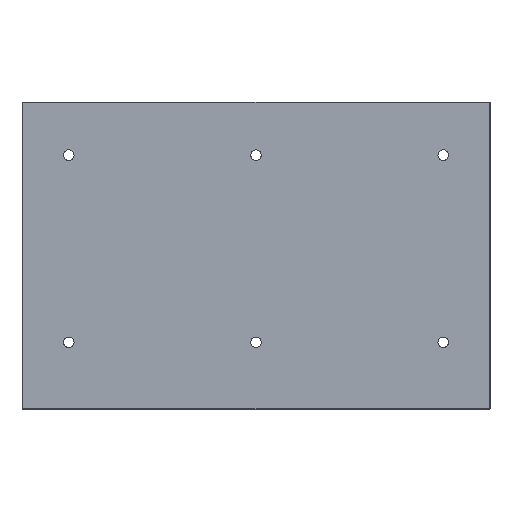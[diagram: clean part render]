
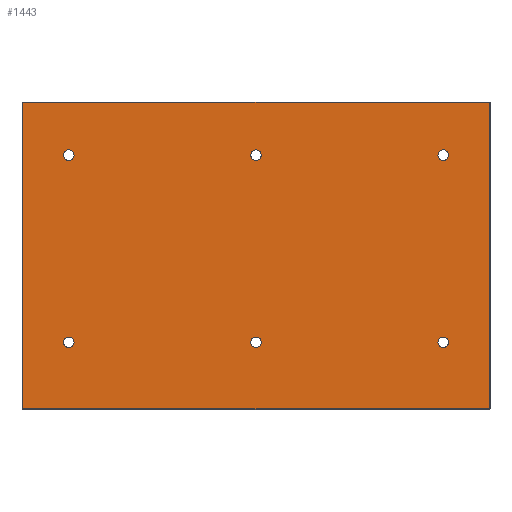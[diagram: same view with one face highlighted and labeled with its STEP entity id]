
A CAD part, front view. The second image highlights one B-rep face of the part: STEP entity #1443.
In plain terms, the highlighted planar face has unit normal (0, -1, 0).
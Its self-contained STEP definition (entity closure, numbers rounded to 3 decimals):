
#177=DIRECTION('',(0.,0.,-1.));
#178=VECTOR('',#177,523.5);
#179=CARTESIAN_POINT('',(398.5,0.,525.));
#180=LINE('',#179,#178);
#181=DIRECTION('',(-1.,0.,0.));
#182=VECTOR('',#181,797.);
#183=CARTESIAN_POINT('',(398.5,0.,1.5));
#184=LINE('',#183,#182);
#185=DIRECTION('',(0.,0.,1.));
#186=VECTOR('',#185,523.5);
#187=CARTESIAN_POINT('',(-398.5,0.,1.5));
#188=LINE('',#187,#186);
#189=DIRECTION('',(1.,0.,0.));
#190=VECTOR('',#189,797.);
#191=CARTESIAN_POINT('',(-398.5,0.,525.));
#192=LINE('',#191,#190);
#193=CARTESIAN_POINT('',(320.,0.,115.));
#194=DIRECTION('',(0.,1.,0.));
#195=DIRECTION('',(1.,0.,0.));
#196=AXIS2_PLACEMENT_3D('',#193,#194,#195);
#198=CARTESIAN_POINT('',(320.,0.,115.));
#199=DIRECTION('',(0.,1.,0.));
#200=DIRECTION('',(-1.,0.,0.));
#201=AXIS2_PLACEMENT_3D('',#198,#199,#200);
#203=CARTESIAN_POINT('',(320.,0.,435.));
#204=DIRECTION('',(0.,1.,0.));
#205=DIRECTION('',(1.,0.,0.));
#206=AXIS2_PLACEMENT_3D('',#203,#204,#205);
#208=CARTESIAN_POINT('',(320.,0.,435.));
#209=DIRECTION('',(0.,1.,0.));
#210=DIRECTION('',(-1.,0.,0.));
#211=AXIS2_PLACEMENT_3D('',#208,#209,#210);
#213=CARTESIAN_POINT('',(0.,0.,115.));
#214=DIRECTION('',(0.,1.,0.));
#215=DIRECTION('',(1.,0.,0.));
#216=AXIS2_PLACEMENT_3D('',#213,#214,#215);
#218=CARTESIAN_POINT('',(0.,0.,115.));
#219=DIRECTION('',(0.,1.,0.));
#220=DIRECTION('',(-1.,0.,0.));
#221=AXIS2_PLACEMENT_3D('',#218,#219,#220);
#223=CARTESIAN_POINT('',(0.,0.,435.));
#224=DIRECTION('',(0.,1.,0.));
#225=DIRECTION('',(1.,0.,0.));
#226=AXIS2_PLACEMENT_3D('',#223,#224,#225);
#228=CARTESIAN_POINT('',(0.,0.,435.));
#229=DIRECTION('',(0.,1.,0.));
#230=DIRECTION('',(-1.,0.,0.));
#231=AXIS2_PLACEMENT_3D('',#228,#229,#230);
#233=CARTESIAN_POINT('',(-320.,0.,115.));
#234=DIRECTION('',(0.,1.,0.));
#235=DIRECTION('',(1.,0.,0.));
#236=AXIS2_PLACEMENT_3D('',#233,#234,#235);
#238=CARTESIAN_POINT('',(-320.,0.,115.));
#239=DIRECTION('',(0.,1.,0.));
#240=DIRECTION('',(-1.,0.,0.));
#241=AXIS2_PLACEMENT_3D('',#238,#239,#240);
#243=CARTESIAN_POINT('',(-320.,0.,435.));
#244=DIRECTION('',(0.,1.,0.));
#245=DIRECTION('',(1.,0.,0.));
#246=AXIS2_PLACEMENT_3D('',#243,#244,#245);
#248=CARTESIAN_POINT('',(-320.,0.,435.));
#249=DIRECTION('',(0.,1.,0.));
#250=DIRECTION('',(-1.,0.,0.));
#251=AXIS2_PLACEMENT_3D('',#248,#249,#250);
#909=CARTESIAN_POINT('',(398.5,0.,525.));
#911=VERTEX_POINT('',#909);
#915=CARTESIAN_POINT('',(398.5,0.,1.5));
#916=VERTEX_POINT('',#915);
#921=CARTESIAN_POINT('',(-398.5,0.,1.5));
#922=VERTEX_POINT('',#921);
#935=CARTESIAN_POINT('',(-398.5,0.,525.));
#936=VERTEX_POINT('',#935);
#1009=CARTESIAN_POINT('',(329.,0.,115.));
#1010=CARTESIAN_POINT('',(311.,0.,115.));
#1011=VERTEX_POINT('',#1009);
#1012=VERTEX_POINT('',#1010);
#1025=CARTESIAN_POINT('',(329.,0.,435.));
#1026=CARTESIAN_POINT('',(311.,0.,435.));
#1027=VERTEX_POINT('',#1025);
#1028=VERTEX_POINT('',#1026);
#1041=CARTESIAN_POINT('',(9.,0.,115.));
#1042=VERTEX_POINT('',#1041);
#1043=CARTESIAN_POINT('',(-9.,0.,115.));
#1044=VERTEX_POINT('',#1043);
#1057=CARTESIAN_POINT('',(9.,0.,435.));
#1058=VERTEX_POINT('',#1057);
#1059=CARTESIAN_POINT('',(-9.,0.,435.));
#1060=VERTEX_POINT('',#1059);
#1073=CARTESIAN_POINT('',(-311.,0.,115.));
#1074=VERTEX_POINT('',#1073);
#1075=CARTESIAN_POINT('',(-329.,0.,115.));
#1076=VERTEX_POINT('',#1075);
#1089=CARTESIAN_POINT('',(-311.,0.,435.));
#1090=VERTEX_POINT('',#1089);
#1091=CARTESIAN_POINT('',(-329.,0.,435.));
#1092=VERTEX_POINT('',#1091);
#1396=CARTESIAN_POINT('',(-400.,0.,525.));
#1397=DIRECTION('',(0.,-1.,0.));
#1398=DIRECTION('',(0.,0.,-1.));
#1399=AXIS2_PLACEMENT_3D('',#1396,#1397,#1398);
#1400=PLANE('',#1399);
#1401=ORIENTED_EDGE('',*,*,#1391,.T.);
#1402=ORIENTED_EDGE('',*,*,#1156,.T.);
#1403=ORIENTED_EDGE('',*,*,#1173,.T.);
#1404=ORIENTED_EDGE('',*,*,#1358,.T.);
#1405=EDGE_LOOP('',(#1401,#1402,#1403,#1404));
#1406=FACE_OUTER_BOUND('',#1405,.F.);
#1408=ORIENTED_EDGE('',*,*,#1407,.F.);
#1410=ORIENTED_EDGE('',*,*,#1409,.F.);
#1411=EDGE_LOOP('',(#1408,#1410));
#1412=FACE_BOUND('',#1411,.F.);
#1414=ORIENTED_EDGE('',*,*,#1413,.F.);
#1416=ORIENTED_EDGE('',*,*,#1415,.F.);
#1417=EDGE_LOOP('',(#1414,#1416));
#1418=FACE_BOUND('',#1417,.F.);
#1420=ORIENTED_EDGE('',*,*,#1419,.F.);
#1422=ORIENTED_EDGE('',*,*,#1421,.F.);
#1423=EDGE_LOOP('',(#1420,#1422));
#1424=FACE_BOUND('',#1423,.F.);
#1426=ORIENTED_EDGE('',*,*,#1425,.F.);
#1428=ORIENTED_EDGE('',*,*,#1427,.F.);
#1429=EDGE_LOOP('',(#1426,#1428));
#1430=FACE_BOUND('',#1429,.F.);
#1432=ORIENTED_EDGE('',*,*,#1431,.F.);
#1434=ORIENTED_EDGE('',*,*,#1433,.F.);
#1435=EDGE_LOOP('',(#1432,#1434));
#1436=FACE_BOUND('',#1435,.F.);
#1438=ORIENTED_EDGE('',*,*,#1437,.F.);
#1440=ORIENTED_EDGE('',*,*,#1439,.F.);
#1441=EDGE_LOOP('',(#1438,#1440));
#1442=FACE_BOUND('',#1441,.F.);
#1443=ADVANCED_FACE('',(#1406,#1412,#1418,#1424,#1430,#1436,#1442),#1400,.T.);
#197=CIRCLE('',#196,9.);
#202=CIRCLE('',#201,9.);
#207=CIRCLE('',#206,9.);
#212=CIRCLE('',#211,9.);
#217=CIRCLE('',#216,9.);
#222=CIRCLE('',#221,9.);
#227=CIRCLE('',#226,9.);
#232=CIRCLE('',#231,9.);
#237=CIRCLE('',#236,9.);
#242=CIRCLE('',#241,9.);
#247=CIRCLE('',#246,9.);
#252=CIRCLE('',#251,9.);
#1156=EDGE_CURVE('',#916,#922,#184,.T.);
#1173=EDGE_CURVE('',#922,#936,#188,.T.);
#1358=EDGE_CURVE('',#936,#911,#192,.T.);
#1391=EDGE_CURVE('',#911,#916,#180,.T.);
#1407=EDGE_CURVE('',#1011,#1012,#197,.T.);
#1409=EDGE_CURVE('',#1012,#1011,#202,.T.);
#1413=EDGE_CURVE('',#1027,#1028,#207,.T.);
#1415=EDGE_CURVE('',#1028,#1027,#212,.T.);
#1419=EDGE_CURVE('',#1042,#1044,#217,.T.);
#1421=EDGE_CURVE('',#1044,#1042,#222,.T.);
#1425=EDGE_CURVE('',#1058,#1060,#227,.T.);
#1427=EDGE_CURVE('',#1060,#1058,#232,.T.);
#1431=EDGE_CURVE('',#1074,#1076,#237,.T.);
#1433=EDGE_CURVE('',#1076,#1074,#242,.T.);
#1437=EDGE_CURVE('',#1090,#1092,#247,.T.);
#1439=EDGE_CURVE('',#1092,#1090,#252,.T.);
